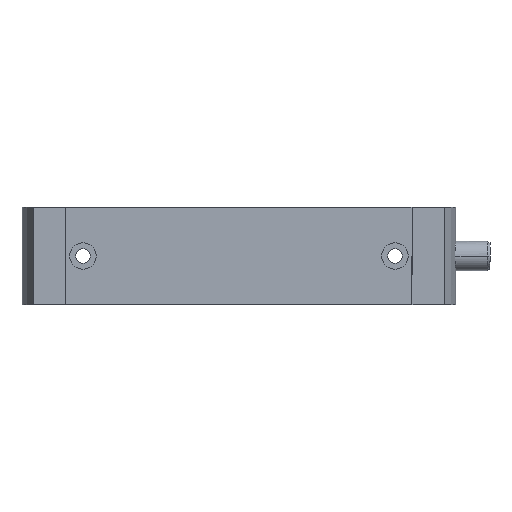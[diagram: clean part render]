
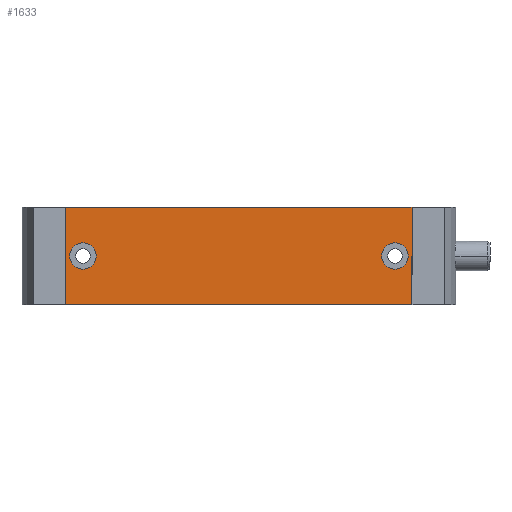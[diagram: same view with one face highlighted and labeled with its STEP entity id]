
A CAD part, left-side view. The second image highlights one B-rep face of the part: STEP entity #1633.
In plain terms, the highlighted planar face has unit normal (-1, 0, 0) as drawn and (0, 0, -1) by its records, which use the part's own axes.
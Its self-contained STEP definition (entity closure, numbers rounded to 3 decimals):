
#232 = AXIS2_PLACEMENT_3D ( 'NONE', #3477, #8000, #4121 ) ;
#247 = CARTESIAN_POINT ( 'NONE',  ( -69.4, 0., -20. ) ) ;
#551 = CARTESIAN_POINT ( 'NONE',  ( 71., 20., -20. ) ) ;
#578 = LINE ( 'NONE', #1429, #7047 ) ;
#709 = EDGE_CURVE ( 'NONE', #5516, #6307, #3020, .T. ) ;
#794 = CIRCLE ( 'NONE', #1971, 5.4 ) ;
#798 = DIRECTION ( 'NONE',  ( 0., 0., 1. ) ) ;
#865 = CARTESIAN_POINT ( 'NONE',  ( 64., 0., -20. ) ) ;
#1001 = EDGE_CURVE ( 'NONE', #4079, #6152, #794, .T. ) ;
#1219 = AXIS2_PLACEMENT_3D ( 'NONE', #3365, #798, #5312 ) ;
#1267 = CARTESIAN_POINT ( 'NONE',  ( -64., 0., -20. ) ) ;
#1429 = CARTESIAN_POINT ( 'NONE',  ( -71., 20., -20. ) ) ;
#1515 = DIRECTION ( 'NONE',  ( 1., 0., 0. ) ) ;
#1579 = ORIENTED_EDGE ( 'NONE', *, *, #6548, .F. ) ;
#1617 = ORIENTED_EDGE ( 'NONE', *, *, #1735, .T. ) ;
#1633 = ADVANCED_FACE ( 'NONE', ( #4208, #7234, #2283 ), #4664, .F. ) ;
#1672 = DIRECTION ( 'NONE',  ( 0., 0., -1. ) ) ;
#1735 = EDGE_CURVE ( 'NONE', #3835, #7195, #6414, .T. ) ;
#1762 = EDGE_CURVE ( 'NONE', #6307, #5516, #3196, .T. ) ;
#1921 = DIRECTION ( 'NONE',  ( -1., 0., 0. ) ) ;
#1971 = AXIS2_PLACEMENT_3D ( 'NONE', #865, #5378, #1515 ) ;
#2080 = DIRECTION ( 'NONE',  ( -1., 0., 0. ) ) ;
#2237 = ORIENTED_EDGE ( 'NONE', *, *, #5621, .T. ) ;
#2283 = FACE_BOUND ( 'NONE', #3258, .T. ) ;
#2308 = CARTESIAN_POINT ( 'NONE',  ( 71., -20., -20. ) ) ;
#2320 = DIRECTION ( 'NONE',  ( -1., 0., 0. ) ) ;
#3020 = CIRCLE ( 'NONE', #4287, 5.4 ) ;
#3196 = CIRCLE ( 'NONE', #4673, 5.4 ) ;
#3211 = CIRCLE ( 'NONE', #232, 5.4 ) ;
#3258 = EDGE_LOOP ( 'NONE', ( #5243, #5217 ) ) ;
#3365 = CARTESIAN_POINT ( 'NONE',  ( -71., 20., -20. ) ) ;
#3477 = CARTESIAN_POINT ( 'NONE',  ( 64., 0., -20. ) ) ;
#3747 = VECTOR ( 'NONE', #5556, 1000. ) ;
#3835 = VERTEX_POINT ( 'NONE', #6729 ) ;
#3898 = EDGE_CURVE ( 'NONE', #4784, #8138, #7175, .T. ) ;
#4079 = VERTEX_POINT ( 'NONE', #4942 ) ;
#4121 = DIRECTION ( 'NONE',  ( 1., 0., 0. ) ) ;
#4202 = CARTESIAN_POINT ( 'NONE',  ( 69.4, 0., -20. ) ) ;
#4208 = FACE_BOUND ( 'NONE', #8140, .T. ) ;
#4287 = AXIS2_PLACEMENT_3D ( 'NONE', #5535, #1672, #6177 ) ;
#4446 = CARTESIAN_POINT ( 'NONE',  ( -71., -20., -20. ) ) ;
#4664 = PLANE ( 'NONE',  #1219 ) ;
#4673 = AXIS2_PLACEMENT_3D ( 'NONE', #1267, #5782, #1921 ) ;
#4784 = VERTEX_POINT ( 'NONE', #7385 ) ;
#4844 = ORIENTED_EDGE ( 'NONE', *, *, #709, .F. ) ;
#4900 = CARTESIAN_POINT ( 'NONE',  ( -71., 20., -20. ) ) ;
#4942 = CARTESIAN_POINT ( 'NONE',  ( 58.6, 0., -20. ) ) ;
#5217 = ORIENTED_EDGE ( 'NONE', *, *, #8379, .T. ) ;
#5243 = ORIENTED_EDGE ( 'NONE', *, *, #1001, .T. ) ;
#5312 = DIRECTION ( 'NONE',  ( 1., 0., 0. ) ) ;
#5378 = DIRECTION ( 'NONE',  ( 0., 0., 1. ) ) ;
#5516 = VERTEX_POINT ( 'NONE', #247 ) ;
#5535 = CARTESIAN_POINT ( 'NONE',  ( -64., 0., -20. ) ) ;
#5542 = VECTOR ( 'NONE', #2320, 1000. ) ;
#5556 = DIRECTION ( 'NONE',  ( 0., -1., 0. ) ) ;
#5621 = EDGE_CURVE ( 'NONE', #7195, #8138, #5747, .T. ) ;
#5747 = LINE ( 'NONE', #6818, #5542 ) ;
#5782 = DIRECTION ( 'NONE',  ( 0., 0., -1. ) ) ;
#6152 = VERTEX_POINT ( 'NONE', #4202 ) ;
#6177 = DIRECTION ( 'NONE',  ( -1., 0., 0. ) ) ;
#6301 = CARTESIAN_POINT ( 'NONE',  ( -58.6, 0., -20. ) ) ;
#6307 = VERTEX_POINT ( 'NONE', #6301 ) ;
#6363 = DIRECTION ( 'NONE',  ( 0., -1., 0. ) ) ;
#6414 = LINE ( 'NONE', #551, #6612 ) ;
#6482 = ORIENTED_EDGE ( 'NONE', *, *, #3898, .F. ) ;
#6548 = EDGE_CURVE ( 'NONE', #3835, #4784, #578, .T. ) ;
#6612 = VECTOR ( 'NONE', #6363, 1000. ) ;
#6729 = CARTESIAN_POINT ( 'NONE',  ( 71., 20., -20. ) ) ;
#6818 = CARTESIAN_POINT ( 'NONE',  ( -71., -20., -20. ) ) ;
#7047 = VECTOR ( 'NONE', #2080, 1000. ) ;
#7175 = LINE ( 'NONE', #4900, #3747 ) ;
#7195 = VERTEX_POINT ( 'NONE', #2308 ) ;
#7222 = EDGE_LOOP ( 'NONE', ( #2237, #6482, #1579, #1617 ) ) ;
#7234 = FACE_OUTER_BOUND ( 'NONE', #7222, .T. ) ;
#7385 = CARTESIAN_POINT ( 'NONE',  ( -71., 20., -20. ) ) ;
#8000 = DIRECTION ( 'NONE',  ( 0., 0., 1. ) ) ;
#8116 = ORIENTED_EDGE ( 'NONE', *, *, #1762, .F. ) ;
#8138 = VERTEX_POINT ( 'NONE', #4446 ) ;
#8140 = EDGE_LOOP ( 'NONE', ( #4844, #8116 ) ) ;
#8379 = EDGE_CURVE ( 'NONE', #6152, #4079, #3211, .T. ) ;
